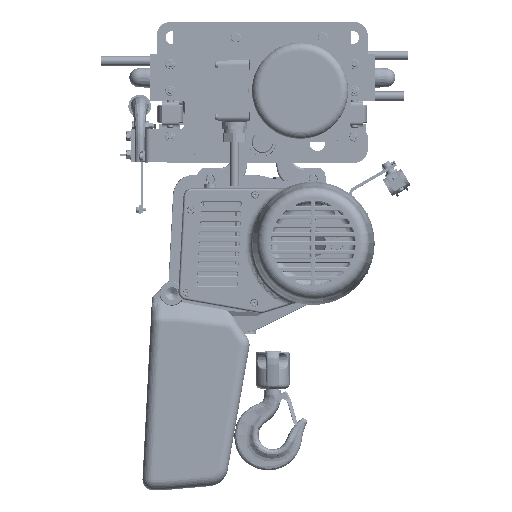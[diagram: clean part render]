
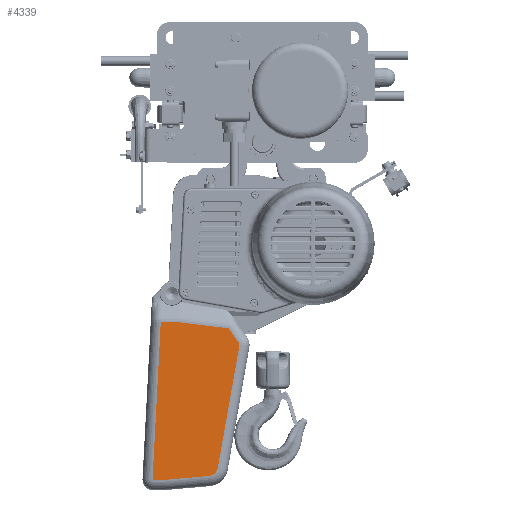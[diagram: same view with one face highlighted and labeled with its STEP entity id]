
A CAD part, top view. The second image highlights one B-rep face of the part: STEP entity #4339.
In plain terms, the highlighted planar face has unit normal (0, 0, 1) as drawn and (0, 0, -1) by its records, which use the part's own axes.
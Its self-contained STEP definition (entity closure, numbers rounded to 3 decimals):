
#875 = ORIENTED_EDGE ( 'NONE', *, *, #5852, .T. ) ;
#4339 = ADVANCED_FACE ( 'NONE', ( #165150 ), #317390, .F. ) ;
#5852 = EDGE_CURVE ( 'NONE', #190059, #85938, #278731, .T. ) ;
#8331 = EDGE_CURVE ( 'NONE', #103878, #64674, #139655, .T. ) ;
#8643 = CARTESIAN_POINT ( 'NONE',  ( -60.223, -126.603, -70. ) ) ;
#11873 = ORIENTED_EDGE ( 'NONE', *, *, #89181, .T. ) ;
#17538 = VECTOR ( 'NONE', #136840, 1000. ) ;
#26372 = CARTESIAN_POINT ( 'NONE',  ( 30.644, -95.646, -70. ) ) ;
#28077 = DIRECTION ( 'NONE',  ( -0.996, 0.087, 0. ) ) ;
#31766 = CARTESIAN_POINT ( 'NONE',  ( -61.059, -130.351, -70. ) ) ;
#34243 = CARTESIAN_POINT ( 'NONE',  ( 68.697, -331., -70. ) ) ;
#36493 = CARTESIAN_POINT ( 'NONE',  ( -28.852, -313.006, -70. ) ) ;
#36534 = AXIS2_PLACEMENT_3D ( 'NONE', #322524, #325785, #272882 ) ;
#37721 = DIRECTION ( 'NONE',  ( 1., 0., 0. ) ) ;
#40820 = VERTEX_POINT ( 'NONE', #294668 ) ;
#42401 = CARTESIAN_POINT ( 'NONE',  ( 34.223, -95.536, -70. ) ) ;
#43689 = AXIS2_PLACEMENT_3D ( 'NONE', #293150, #145879, #46526 ) ;
#46526 = DIRECTION ( 'NONE',  ( 1., 0., 0. ) ) ;
#47213 = CARTESIAN_POINT ( 'NONE',  ( -61.135, -129.483, -70. ) ) ;
#50924 = LINE ( 'NONE', #212936, #17538 ) ;
#51041 = VERTEX_POINT ( 'NONE', #260139 ) ;
#54452 = VERTEX_POINT ( 'NONE', #80548 ) ;
#54548 = LINE ( 'NONE', #259723, #173958 ) ;
#57052 = EDGE_CURVE ( 'NONE', #321234, #103878, #203983, .T. ) ;
#64674 = VERTEX_POINT ( 'NONE', #47213 ) ;
#77940 = ORIENTED_EDGE ( 'NONE', *, *, #236331, .T. ) ;
#80548 = CARTESIAN_POINT ( 'NONE',  ( -44.956, -104.929, -70. ) ) ;
#83104 = DIRECTION ( 'NONE',  ( -0.174, 0.985, 0. ) ) ;
#85938 = VERTEX_POINT ( 'NONE', #34243 ) ;
#86395 = ORIENTED_EDGE ( 'NONE', *, *, #308734, .T. ) ;
#86610 = EDGE_CURVE ( 'NONE', #217115, #190059, #153988, .T. ) ;
#87638 = DIRECTION ( 'NONE',  ( 1., 0., 0. ) ) ;
#89181 = EDGE_CURVE ( 'NONE', #178033, #54452, #235858, .T. ) ;
#103878 = VERTEX_POINT ( 'NONE', #117852 ) ;
#115587 = ORIENTED_EDGE ( 'NONE', *, *, #86610, .T. ) ;
#117852 = CARTESIAN_POINT ( 'NONE',  ( -61.059, -130.351, -70. ) ) ;
#122833 = CIRCLE ( 'NONE', #43689, 15. ) ;
#123082 = EDGE_CURVE ( 'NONE', #300524, #51041, #54548, .T. ) ;
#134877 = LINE ( 'NONE', #161316, #227430 ) ;
#136840 = DIRECTION ( 'NONE',  ( 0.993, 0.122, 0. ) ) ;
#139655 = CIRCLE ( 'NONE', #314215, 5. ) ;
#143231 = AXIS2_PLACEMENT_3D ( 'NONE', #266081, #191629, #37721 ) ;
#145879 = DIRECTION ( 'NONE',  ( 0., 0., -1. ) ) ;
#146517 = CARTESIAN_POINT ( 'NONE',  ( 69.525, -346.785, -70. ) ) ;
#147635 = CIRCLE ( 'NONE', #36534, 5. ) ;
#147653 = ORIENTED_EDGE ( 'NONE', *, *, #8331, .T. ) ;
#148898 = CARTESIAN_POINT ( 'NONE',  ( 32.433, -95.536, -70. ) ) ;
#153226 = DIRECTION ( 'NONE',  ( 0.576, 0.818, 0. ) ) ;
#153988 = LINE ( 'NONE', #254953, #301406 ) ;
#161316 = CARTESIAN_POINT ( 'NONE',  ( 48.604, -331., -70. ) ) ;
#165150 = FACE_OUTER_BOUND ( 'NONE', #248427, .T. ) ;
#170153 = VECTOR ( 'NONE', #297074, 1000. ) ;
#171456 = ORIENTED_EDGE ( 'NONE', *, *, #317110, .T. ) ;
#173958 = VECTOR ( 'NONE', #28077, 1000. ) ;
#178033 = VERTEX_POINT ( 'NONE', #8643 ) ;
#182171 = ORIENTED_EDGE ( 'NONE', *, *, #253669, .T. ) ;
#190059 = VERTEX_POINT ( 'NONE', #202182 ) ;
#191629 = DIRECTION ( 'NONE',  ( 0., 0., 1. ) ) ;
#194976 = CARTESIAN_POINT ( 'NONE',  ( -56.135, -129.483, -70. ) ) ;
#202182 = CARTESIAN_POINT ( 'NONE',  ( 56.357, -95.536, -70. ) ) ;
#203983 = LINE ( 'NONE', #31766, #243785 ) ;
#212936 = CARTESIAN_POINT ( 'NONE',  ( 53.421, -92.849, -70. ) ) ;
#217115 = VERTEX_POINT ( 'NONE', #42401 ) ;
#227430 = VECTOR ( 'NONE', #239098, 1000. ) ;
#235858 = LINE ( 'NONE', #280586, #262421 ) ;
#236331 = EDGE_CURVE ( 'NONE', #85938, #300524, #134877, .T. ) ;
#237764 =( BOUNDED_CURVE ( )  B_SPLINE_CURVE ( 3, ( #274641, #26372, #148898, #322690 ),
 .UNSPECIFIED., .F., .F. ) 
 B_SPLINE_CURVE_WITH_KNOTS ( ( 4, 4 ),
 ( 3.07, 3.142 ),
 .UNSPECIFIED. ) 
 CURVE ( )  GEOMETRIC_REPRESENTATION_ITEM ( )  RATIONAL_B_SPLINE_CURVE ( ( 1., 1., 1., 1. ) ) 
 REPRESENTATION_ITEM ( '' )  );
#239098 = DIRECTION ( 'NONE',  ( -1., 0., 0. ) ) ;
#243785 = VECTOR ( 'NONE', #83104, 1000. ) ;
#244656 = DIRECTION ( 'NONE',  ( 1., 0., 0. ) ) ;
#248427 = EDGE_LOOP ( 'NONE', ( #171456, #182171, #115587, #875, #77940, #259295, #298105, #259745, #147653, #86395, #11873 ) ) ;
#253669 = EDGE_CURVE ( 'NONE', #40820, #217115, #237764, .T. ) ;
#254953 = CARTESIAN_POINT ( 'NONE',  ( 84.504, -95.536, -70. ) ) ;
#259295 = ORIENTED_EDGE ( 'NONE', *, *, #123082, .T. ) ;
#259723 = CARTESIAN_POINT ( 'NONE',  ( -15.387, -325.344, -70. ) ) ;
#259745 = ORIENTED_EDGE ( 'NONE', *, *, #57052, .T. ) ;
#260139 = CARTESIAN_POINT ( 'NONE',  ( -15.387, -325.344, -70. ) ) ;
#262421 = VECTOR ( 'NONE', #153226, 1000. ) ;
#266081 = CARTESIAN_POINT ( 'NONE',  ( 84.504, -346., -70. ) ) ;
#272882 = DIRECTION ( 'NONE',  ( 1., 0., 0. ) ) ;
#274641 = CARTESIAN_POINT ( 'NONE',  ( 28.858, -95.865, -70. ) ) ;
#278731 = LINE ( 'NONE', #146517, #170153 ) ;
#280586 = CARTESIAN_POINT ( 'NONE',  ( -115.52, -205.11, -70. ) ) ;
#282746 = EDGE_CURVE ( 'NONE', #51041, #321234, #122833, .T. ) ;
#293150 = CARTESIAN_POINT ( 'NONE',  ( -14.08, -310.401, -70. ) ) ;
#294668 = CARTESIAN_POINT ( 'NONE',  ( 28.858, -95.865, -70. ) ) ;
#297074 = DIRECTION ( 'NONE',  ( 0.052, -0.999, 0. ) ) ;
#298105 = ORIENTED_EDGE ( 'NONE', *, *, #282746, .T. ) ;
#300524 = VERTEX_POINT ( 'NONE', #305216 ) ;
#301406 = VECTOR ( 'NONE', #87638, 1000. ) ;
#305216 = CARTESIAN_POINT ( 'NONE',  ( 49.259, -331., -70. ) ) ;
#308734 = EDGE_CURVE ( 'NONE', #64674, #178033, #147635, .T. ) ;
#314215 = AXIS2_PLACEMENT_3D ( 'NONE', #194976, #317455, #244656 ) ;
#317110 = EDGE_CURVE ( 'NONE', #54452, #40820, #50924, .T. ) ;
#317390 = PLANE ( 'NONE',  #143231 ) ;
#317455 = DIRECTION ( 'NONE',  ( 0., 0., -1. ) ) ;
#321234 = VERTEX_POINT ( 'NONE', #36493 ) ;
#322524 = CARTESIAN_POINT ( 'NONE',  ( -56.135, -129.483, -70. ) ) ;
#322690 = CARTESIAN_POINT ( 'NONE',  ( 34.223, -95.536, -70. ) ) ;
#325785 = DIRECTION ( 'NONE',  ( 0., 0., -1. ) ) ;
